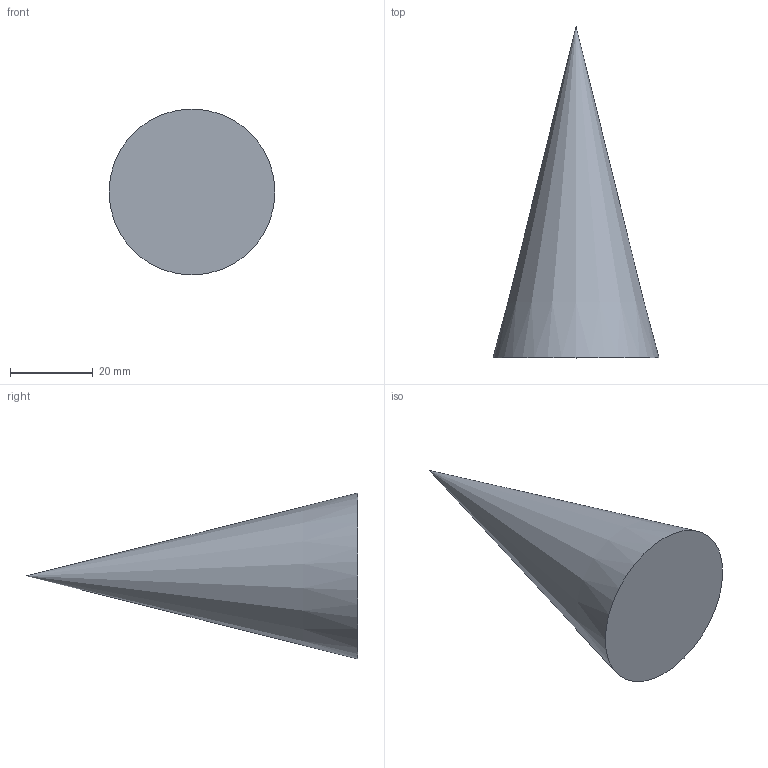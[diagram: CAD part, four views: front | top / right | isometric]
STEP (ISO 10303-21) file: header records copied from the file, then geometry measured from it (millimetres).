
FILE_DESCRIPTION(/* description */ ('','CAx-IF Rec.Pracs.---Representation and Presentation of Product Manufacturing Information (PMI)---4.0---2014-10-13'),/* implementation_level */ '2;1');
FILE_NAME(/* name */ '1.stp',/* time_stamp */ '2026-06-27T13:38:53+01:00',/* author */ ('hunte'),/* organization */ (''),/* preprocessor_version */ 'ST-DEVELOPER v20',/* originating_system */ 'Autodesk Inventor 2024',/* authorisation */ '');
FILE_SCHEMA (('AP242_MANAGED_MODEL_BASED_3D_ENGINEERING_MIM_LF { 1 0 10303 442 1 1 4 }'));
Length unit declared in the file: millimetre
Products named in the file (1): 1
Bounding box: 40 x 80 x 40 mm (x, y, z)
Volume: 33510.3 mm3; surface area: 6437.9 mm2
Topology: 1 solids, 1 shells, 2 faces, 3 edges, 2 vertices
Faces by surface type: plane 1, cone 1
Entity records: 174 total; most frequent: DIRECTION 35, CARTESIAN_POINT 24, AXIS2_PLACEMENT_3D 17, MAPPED_ITEM 5, REPRESENTATION_MAP 5, DRAUGHTING_MODEL 5, MECHANICAL_DESIGN_AND_DRAUGHTING_RELATIONSHIP 4, CAMERA_MODEL_D3 4
